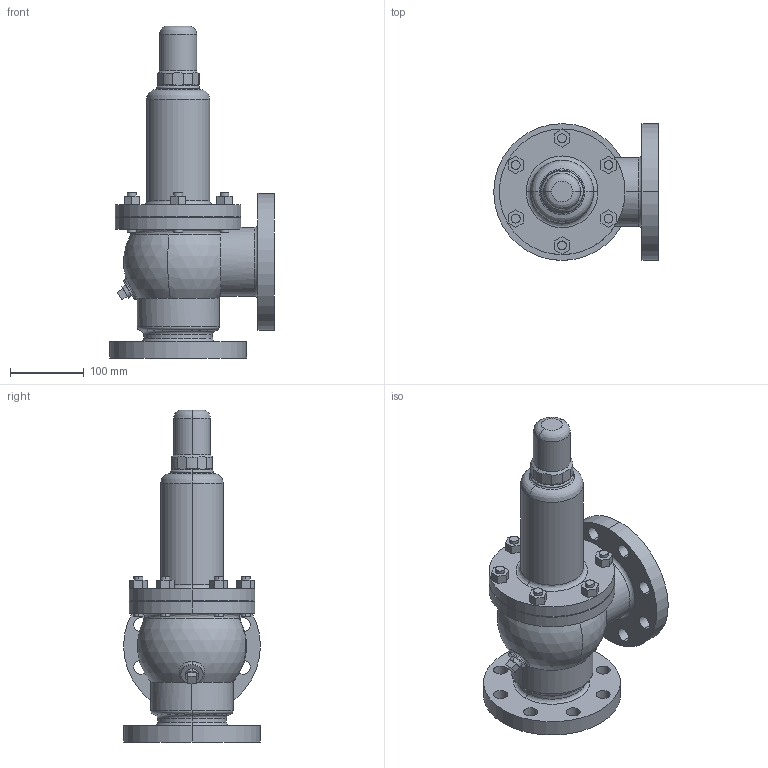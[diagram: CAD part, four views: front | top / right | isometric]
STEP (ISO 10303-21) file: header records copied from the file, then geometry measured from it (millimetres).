
FILE_DESCRIPTION( (''), '2;1');
FILE_NAME ('PC1027.9568.AL-4 80A(JIS 10K)_1106.stp','2025-07-28T13:04:20',(''),(''),'spGate 19.8.4 (****-****-****-****)','','');
FILE_SCHEMA (('AUTOMOTIVE_DESIGN'));
Length unit declared in the file: millimetre
Products named in the file (3): Assembly; プラグ; 3D 80A
Assembly tree (2 placements, depth 2):
  Assembly
    プラグ
    3D 80A
Bounding box: 222.5 x 185 x 449 mm (x, y, z)
Volume: 4932665.6 mm3; surface area: 337898 mm2
Topology: 2 solids, 2 shells, 220 faces, 550 edges, 354 vertices
Faces by surface type: cylinder 108, plane 81, bspline 29, sphere 2
Entity records: 11802 total; most frequent: CARTESIAN_POINT 2254, ORIENTED_EDGE 1096, DIRECTION 1032, COLOUR_RGB 770, PRESENTATION_STYLE_ASSIGNMENT 770, STYLED_ITEM 770, EDGE_CURVE 548, DRAUGHTING_PRE_DEFINED_CURVE_FONT 548
